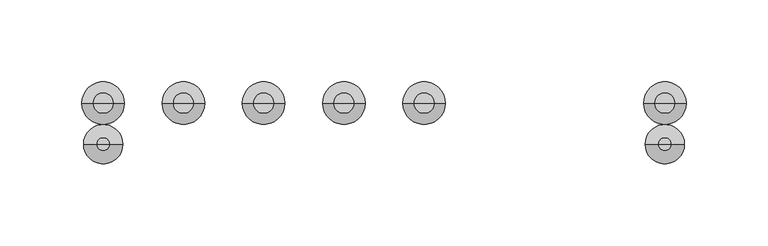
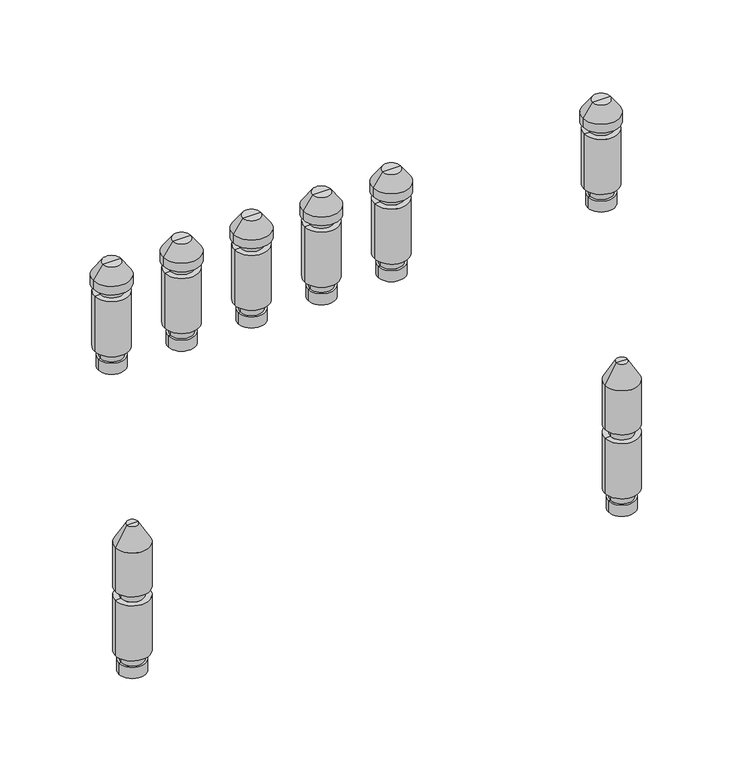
"""IFC4 building model written with IfcOpenShell, lengths in millimetres: valve geometry, PL AT_Manifold_FT-EV : 09 circuits."""

from ifc_helpers import new_model, si_unit, frame, origin, place, context, project, spatial, polyline, circle_curve, source, transform, mapped, element, save
from ifc_brep_helpers import plane_surface, cylinder_surface, revolved_surface, advanced_brep


def valve_0359cbb0(model_context):
    return source(origin(), model_context, "Body", "AdvancedBrep", [
        advanced_brep(
        [(277.5, 25.0, 174.88733), (296.5, 25.0, 174.88733), (287.0, 25.0, 174.88733), (277.5, 25.0, 182.9630354), (296.5, 25.0, 182.9630354), (279.0, 25.0, 182.9630354), (295.0, 25.0, 182.9630354), (279.0, 25.0, 189.669747), (295.0, 25.0, 189.669747), (275.0, 25.0, 189.669747), (299.0, 25.0, 189.669747), (275.0, 25.0, 230.330253), (299.0, 25.0, 230.330253), (279.0, 25.0, 230.330253), (295.0, 25.0, 230.330253), (279.0, 25.0, 236.0474786), (295.0, 25.0, 236.0474786), (274.0, 25.0, 236.0474786), (300.0, 25.0, 236.0474786), (274.0, 25.0, 242.337955), (300.0, 25.0, 242.337955), (280.6551779, 25.0, 251.842534), (293.3448221, 25.0, 251.842534), (287.0, 25.0, 251.842534)],
        [
            (0, 1, circle_curve(frame((287.0, 25.0, 174.88733), z_axis=(0.0, 0.0, -1.0), x_axis=(1.0, 0.0, 0.0)), 9.5)),
            (1, 2),
            (2, 0),
            (1, 0, circle_curve(frame((287.0, 25.0, 174.88733), z_axis=(0.0, 0.0, -1.0), x_axis=(1.0, 0.0, 0.0)), 9.5)),
            (3, 4, circle_curve(frame((287.0, 25.0, 182.9630354), z_axis=(0.0, 0.0, -1.0), x_axis=(1.0, 0.0, 0.0)), 9.5)),
            (4, 1),
            (0, 3),
            (4, 3, circle_curve(frame((287.0, 25.0, 182.9630354), z_axis=(0.0, 0.0, -1.0), x_axis=(1.0, 0.0, 0.0)), 9.5)),
            (5, 6, circle_curve(frame((287.0, 25.0, 182.9630354), z_axis=(0.0, 0.0, -1.0), x_axis=(1.0, 0.0, 0.0)), 8.0)),
            (6, 4),
            (3, 5),
            (6, 5, circle_curve(frame((287.0, 25.0, 182.9630354), z_axis=(0.0, 0.0, -1.0), x_axis=(1.0, 0.0, 0.0)), 8.0)),
            (7, 8, circle_curve(frame((287.0, 25.0, 189.669747), z_axis=(0.0, 0.0, -1.0), x_axis=(1.0, 0.0, 0.0)), 8.0)),
            (8, 6),
            (5, 7),
            (8, 7, circle_curve(frame((287.0, 25.0, 189.669747), z_axis=(0.0, 0.0, -1.0), x_axis=(1.0, 0.0, 0.0)), 8.0)),
            (9, 10, circle_curve(frame((287.0, 25.0, 189.669747), z_axis=(0.0, 0.0, -1.0), x_axis=(1.0, 0.0, 0.0)), 12.0)),
            (10, 8),
            (7, 9),
            (10, 9, circle_curve(frame((287.0, 25.0, 189.669747), z_axis=(0.0, 0.0, -1.0), x_axis=(1.0, 0.0, 0.0)), 12.0)),
            (11, 12, circle_curve(frame((287.0, 25.0, 230.330253), z_axis=(0.0, 0.0, -1.0), x_axis=(1.0, 0.0, 0.0)), 12.0)),
            (12, 10),
            (9, 11),
            (12, 11, circle_curve(frame((287.0, 25.0, 230.330253), z_axis=(0.0, 0.0, -1.0), x_axis=(1.0, 0.0, 0.0)), 12.0)),
            (13, 14, circle_curve(frame((287.0, 25.0, 230.330253), z_axis=(0.0, 0.0, -1.0), x_axis=(1.0, 0.0, 0.0)), 8.0)),
            (14, 12),
            (11, 13),
            (14, 13, circle_curve(frame((287.0, 25.0, 230.330253), z_axis=(0.0, 0.0, -1.0), x_axis=(1.0, 0.0, 0.0)), 8.0)),
            (15, 16, circle_curve(frame((287.0, 25.0, 236.0474786), z_axis=(0.0, 0.0, -1.0), x_axis=(1.0, 0.0, 0.0)), 8.0)),
            (16, 14),
            (13, 15),
            (16, 15, circle_curve(frame((287.0, 25.0, 236.0474786), z_axis=(0.0, 0.0, -1.0), x_axis=(1.0, 0.0, 0.0)), 8.0)),
            (17, 18, circle_curve(frame((287.0, 25.0, 236.0474786), z_axis=(0.0, 0.0, -1.0), x_axis=(1.0, 0.0, 0.0)), 13.0)),
            (18, 16),
            (15, 17),
            (18, 17, circle_curve(frame((287.0, 25.0, 236.0474786), z_axis=(0.0, 0.0, -1.0), x_axis=(1.0, 0.0, 0.0)), 13.0)),
            (19, 20, circle_curve(frame((287.0, 25.0, 242.337955), z_axis=(0.0, 0.0, -1.0), x_axis=(1.0, 0.0, 0.0)), 13.0)),
            (20, 18),
            (17, 19),
            (20, 19, circle_curve(frame((287.0, 25.0, 242.337955), z_axis=(0.0, 0.0, -1.0), x_axis=(1.0, 0.0, 0.0)), 13.0)),
            (21, 22, circle_curve(frame((287.0, 25.0, 251.842534), z_axis=(0.0, 0.0, -1.0), x_axis=(1.0, 0.0, 0.0)), 6.3448221)),
            (22, 20),
            (19, 21),
            (22, 21, circle_curve(frame((287.0, 25.0, 251.842534), z_axis=(0.0, 0.0, -1.0), x_axis=(1.0, 0.0, 0.0)), 6.3448221)),
            (23, 22),
            (21, 23),
        ],
        [
            plane_surface(frame((287.0, 25.0, 174.88733), z_axis=(0.0, 0.0, -1.0), x_axis=(1.0, 0.0, 0.0))),
            cylinder_surface(frame((287.0, 25.0, 247.7026565), z_axis=(0.0, 0.0, 1.0), x_axis=(1.0, 0.0, 0.0)), 9.5),
            plane_surface(frame((287.0, 25.0, 182.9630354), z_axis=(0.0, 0.0, 1.0), x_axis=(1.0, 0.0, 0.0))),
            cylinder_surface(frame((287.0, 25.0, 247.7026565), z_axis=(0.0, 0.0, 1.0), x_axis=(1.0, 0.0, 0.0)), 8.0),
            plane_surface(frame((287.0, 25.0, 189.669747), z_axis=(0.0, 0.0, -1.0), x_axis=(1.0, 0.0, 0.0))),
            cylinder_surface(frame((287.0, 25.0, 247.7026565), z_axis=(0.0, 0.0, 1.0), x_axis=(1.0, 0.0, 0.0)), 12.0),
            plane_surface(frame((287.0, 25.0, 230.330253), z_axis=(0.0, 0.0, 1.0), x_axis=(1.0, 0.0, 0.0))),
            plane_surface(frame((287.0, 25.0, 236.0474786), z_axis=(0.0, 0.0, -1.0), x_axis=(1.0, 0.0, 0.0))),
            cylinder_surface(frame((287.0, 25.0, 247.7026565), z_axis=(0.0, 0.0, 1.0), x_axis=(1.0, 0.0, 0.0)), 13.0),
            revolved_surface(polyline([(300.0, 25.0, 242.337955), (293.3448221, 25.0, 251.842534)]), (287.0, 25.0, 247.7026565), (0.0, 0.0, 1.0)),
            plane_surface(frame((287.0, 25.0, 251.842534), z_axis=(0.0, 0.0, 1.0), x_axis=(1.0, 0.0, 0.0))),
        ],
        [
            (0, [[1, 2, 3]]),
            (0, [[4, -3, -2]]),
            (1, [[5, 6, -1, 7]]),
            (1, [[8, -7, -4, -6]]),
            (2, [[9, 10, -5, 11]]),
            (2, [[12, -11, -8, -10]]),
            (3, [[13, 14, -9, 15]]),
            (3, [[16, -15, -12, -14]]),
            (4, [[17, 18, -13, 19]]),
            (4, [[20, -19, -16, -18]]),
            (5, [[21, 22, -17, 23]]),
            (5, [[24, -23, -20, -22]]),
            (6, [[25, 26, -21, 27]]),
            (6, [[28, -27, -24, -26]]),
            (3, [[29, 30, -25, 31]]),
            (3, [[32, -31, -28, -30]]),
            (7, [[33, 34, -29, 35]]),
            (7, [[36, -35, -32, -34]]),
            (8, [[37, 38, -33, 39]]),
            (8, [[40, -39, -36, -38]]),
            (9, [[41, 42, -37, 43]]),
            (9, [[44, -43, -40, -42]]),
            (10, [[45, -41, 46]]),
            (10, [[-46, -44, -45]]),
        ],
    ),
        advanced_brep(
        [(228.5, 25.0, 174.88733), (247.5, 25.0, 174.88733), (238.0, 25.0, 174.88733), (228.5, 25.0, 182.9630354), (247.5, 25.0, 182.9630354), (230.0, 25.0, 182.9630354), (246.0, 25.0, 182.9630354), (230.0, 25.0, 189.669747), (246.0, 25.0, 189.669747), (226.0, 25.0, 189.669747), (250.0, 25.0, 189.669747), (226.0, 25.0, 230.330253), (250.0, 25.0, 230.330253), (230.0, 25.0, 230.330253), (246.0, 25.0, 230.330253), (230.0, 25.0, 236.0474786), (246.0, 25.0, 236.0474786), (225.0, 25.0, 236.0474786), (251.0, 25.0, 236.0474786), (225.0, 25.0, 242.337955), (251.0, 25.0, 242.337955), (231.6551779, 25.0, 251.842534), (244.3448221, 25.0, 251.842534), (238.0, 25.0, 251.842534)],
        [
            (0, 1, circle_curve(frame((238.0, 25.0, 174.88733), z_axis=(0.0, 0.0, -1.0), x_axis=(1.0, 0.0, 0.0)), 9.5)),
            (1, 2),
            (2, 0),
            (1, 0, circle_curve(frame((238.0, 25.0, 174.88733), z_axis=(0.0, 0.0, -1.0), x_axis=(1.0, 0.0, 0.0)), 9.5)),
            (3, 4, circle_curve(frame((238.0, 25.0, 182.9630354), z_axis=(0.0, 0.0, -1.0), x_axis=(1.0, 0.0, 0.0)), 9.5)),
            (4, 1),
            (0, 3),
            (4, 3, circle_curve(frame((238.0, 25.0, 182.9630354), z_axis=(0.0, 0.0, -1.0), x_axis=(1.0, 0.0, 0.0)), 9.5)),
            (5, 6, circle_curve(frame((238.0, 25.0, 182.9630354), z_axis=(0.0, 0.0, -1.0), x_axis=(1.0, 0.0, 0.0)), 8.0)),
            (6, 4),
            (3, 5),
            (6, 5, circle_curve(frame((238.0, 25.0, 182.9630354), z_axis=(0.0, 0.0, -1.0), x_axis=(1.0, 0.0, 0.0)), 8.0)),
            (7, 8, circle_curve(frame((238.0, 25.0, 189.669747), z_axis=(0.0, 0.0, -1.0), x_axis=(1.0, 0.0, 0.0)), 8.0)),
            (8, 6),
            (5, 7),
            (8, 7, circle_curve(frame((238.0, 25.0, 189.669747), z_axis=(0.0, 0.0, -1.0), x_axis=(1.0, 0.0, 0.0)), 8.0)),
            (9, 10, circle_curve(frame((238.0, 25.0, 189.669747), z_axis=(0.0, 0.0, -1.0), x_axis=(1.0, 0.0, 0.0)), 12.0)),
            (10, 8),
            (7, 9),
            (10, 9, circle_curve(frame((238.0, 25.0, 189.669747), z_axis=(0.0, 0.0, -1.0), x_axis=(1.0, 0.0, 0.0)), 12.0)),
            (11, 12, circle_curve(frame((238.0, 25.0, 230.330253), z_axis=(0.0, 0.0, -1.0), x_axis=(1.0, 0.0, 0.0)), 12.0)),
            (12, 10),
            (9, 11),
            (12, 11, circle_curve(frame((238.0, 25.0, 230.330253), z_axis=(0.0, 0.0, -1.0), x_axis=(1.0, 0.0, 0.0)), 12.0)),
            (13, 14, circle_curve(frame((238.0, 25.0, 230.330253), z_axis=(0.0, 0.0, -1.0), x_axis=(1.0, 0.0, 0.0)), 8.0)),
            (14, 12),
            (11, 13),
            (14, 13, circle_curve(frame((238.0, 25.0, 230.330253), z_axis=(0.0, 0.0, -1.0), x_axis=(1.0, 0.0, 0.0)), 8.0)),
            (15, 16, circle_curve(frame((238.0, 25.0, 236.0474786), z_axis=(0.0, 0.0, -1.0), x_axis=(1.0, 0.0, 0.0)), 8.0)),
            (16, 14),
            (13, 15),
            (16, 15, circle_curve(frame((238.0, 25.0, 236.0474786), z_axis=(0.0, 0.0, -1.0), x_axis=(1.0, 0.0, 0.0)), 8.0)),
            (17, 18, circle_curve(frame((238.0, 25.0, 236.0474786), z_axis=(0.0, 0.0, -1.0), x_axis=(1.0, 0.0, 0.0)), 13.0)),
            (18, 16),
            (15, 17),
            (18, 17, circle_curve(frame((238.0, 25.0, 236.0474786), z_axis=(0.0, 0.0, -1.0), x_axis=(1.0, 0.0, 0.0)), 13.0)),
            (19, 20, circle_curve(frame((238.0, 25.0, 242.337955), z_axis=(0.0, 0.0, -1.0), x_axis=(1.0, 0.0, 0.0)), 13.0)),
            (20, 18),
            (17, 19),
            (20, 19, circle_curve(frame((238.0, 25.0, 242.337955), z_axis=(0.0, 0.0, -1.0), x_axis=(1.0, 0.0, 0.0)), 13.0)),
            (21, 22, circle_curve(frame((238.0, 25.0, 251.842534), z_axis=(0.0, 0.0, -1.0), x_axis=(1.0, 0.0, 0.0)), 6.3448221)),
            (22, 20),
            (19, 21),
            (22, 21, circle_curve(frame((238.0, 25.0, 251.842534), z_axis=(0.0, 0.0, -1.0), x_axis=(1.0, 0.0, 0.0)), 6.3448221)),
            (23, 22),
            (21, 23),
        ],
        [
            plane_surface(frame((238.0, 25.0, 174.88733), z_axis=(0.0, 0.0, -1.0), x_axis=(1.0, 0.0, 0.0))),
            cylinder_surface(frame((238.0, 25.0, 247.7026565), z_axis=(0.0, 0.0, 1.0), x_axis=(1.0, 0.0, 0.0)), 9.5),
            plane_surface(frame((238.0, 25.0, 182.9630354), z_axis=(0.0, 0.0, 1.0), x_axis=(1.0, 0.0, 0.0))),
            cylinder_surface(frame((238.0, 25.0, 247.7026565), z_axis=(0.0, 0.0, 1.0), x_axis=(1.0, 0.0, 0.0)), 8.0),
            plane_surface(frame((238.0, 25.0, 189.669747), z_axis=(0.0, 0.0, -1.0), x_axis=(1.0, 0.0, 0.0))),
            cylinder_surface(frame((238.0, 25.0, 247.7026565), z_axis=(0.0, 0.0, 1.0), x_axis=(1.0, 0.0, 0.0)), 12.0),
            plane_surface(frame((238.0, 25.0, 230.330253), z_axis=(0.0, 0.0, 1.0), x_axis=(1.0, 0.0, 0.0))),
            plane_surface(frame((238.0, 25.0, 236.0474786), z_axis=(0.0, 0.0, -1.0), x_axis=(1.0, 0.0, 0.0))),
            cylinder_surface(frame((238.0, 25.0, 247.7026565), z_axis=(0.0, 0.0, 1.0), x_axis=(1.0, 0.0, 0.0)), 13.0),
            revolved_surface(polyline([(251.0, 25.0, 242.337955), (244.3448221, 25.0, 251.842534)]), (238.0, 25.0, 247.7026565), (0.0, 0.0, 1.0)),
            plane_surface(frame((238.0, 25.0, 251.842534), z_axis=(0.0, 0.0, 1.0), x_axis=(1.0, 0.0, 0.0))),
        ],
        [
            (0, [[1, 2, 3]]),
            (0, [[4, -3, -2]]),
            (1, [[5, 6, -1, 7]]),
            (1, [[8, -7, -4, -6]]),
            (2, [[9, 10, -5, 11]]),
            (2, [[12, -11, -8, -10]]),
            (3, [[13, 14, -9, 15]]),
            (3, [[16, -15, -12, -14]]),
            (4, [[17, 18, -13, 19]]),
            (4, [[20, -19, -16, -18]]),
            (5, [[21, 22, -17, 23]]),
            (5, [[24, -23, -20, -22]]),
            (6, [[25, 26, -21, 27]]),
            (6, [[28, -27, -24, -26]]),
            (3, [[29, 30, -25, 31]]),
            (3, [[32, -31, -28, -30]]),
            (7, [[33, 34, -29, 35]]),
            (7, [[36, -35, -32, -34]]),
            (8, [[37, 38, -33, 39]]),
            (8, [[40, -39, -36, -38]]),
            (9, [[41, 42, -37, 43]]),
            (9, [[44, -43, -40, -42]]),
            (10, [[45, -41, 46]]),
            (10, [[-46, -44, -45]]),
        ],
    ),
        advanced_brep(
        [(179.5, 25.0, 174.88733), (198.5, 25.0, 174.88733), (189.0, 25.0, 174.88733), (179.5, 25.0, 182.9630354), (198.5, 25.0, 182.9630354), (181.0, 25.0, 182.9630354), (197.0, 25.0, 182.9630354), (181.0, 25.0, 189.669747), (197.0, 25.0, 189.669747), (177.0, 25.0, 189.669747), (201.0, 25.0, 189.669747), (177.0, 25.0, 230.330253), (201.0, 25.0, 230.330253), (181.0, 25.0, 230.330253), (197.0, 25.0, 230.330253), (181.0, 25.0, 236.0474786), (197.0, 25.0, 236.0474786), (176.0, 25.0, 236.0474786), (202.0, 25.0, 236.0474786), (176.0, 25.0, 242.337955), (202.0, 25.0, 242.337955), (182.6551779, 25.0, 251.842534), (195.3448221, 25.0, 251.842534), (189.0, 25.0, 251.842534)],
        [
            (0, 1, circle_curve(frame((189.0, 25.0, 174.88733), z_axis=(0.0, 0.0, -1.0), x_axis=(1.0, 0.0, 0.0)), 9.5)),
            (1, 2),
            (2, 0),
            (1, 0, circle_curve(frame((189.0, 25.0, 174.88733), z_axis=(0.0, 0.0, -1.0), x_axis=(1.0, 0.0, 0.0)), 9.5)),
            (3, 4, circle_curve(frame((189.0, 25.0, 182.9630354), z_axis=(0.0, 0.0, -1.0), x_axis=(1.0, 0.0, 0.0)), 9.5)),
            (4, 1),
            (0, 3),
            (4, 3, circle_curve(frame((189.0, 25.0, 182.9630354), z_axis=(0.0, 0.0, -1.0), x_axis=(1.0, 0.0, 0.0)), 9.5)),
            (5, 6, circle_curve(frame((189.0, 25.0, 182.9630354), z_axis=(0.0, 0.0, -1.0), x_axis=(1.0, 0.0, 0.0)), 8.0)),
            (6, 4),
            (3, 5),
            (6, 5, circle_curve(frame((189.0, 25.0, 182.9630354), z_axis=(0.0, 0.0, -1.0), x_axis=(1.0, 0.0, 0.0)), 8.0)),
            (7, 8, circle_curve(frame((189.0, 25.0, 189.669747), z_axis=(0.0, 0.0, -1.0), x_axis=(1.0, 0.0, 0.0)), 8.0)),
            (8, 6),
            (5, 7),
            (8, 7, circle_curve(frame((189.0, 25.0, 189.669747), z_axis=(0.0, 0.0, -1.0), x_axis=(1.0, 0.0, 0.0)), 8.0)),
            (9, 10, circle_curve(frame((189.0, 25.0, 189.669747), z_axis=(0.0, 0.0, -1.0), x_axis=(1.0, 0.0, 0.0)), 12.0)),
            (10, 8),
            (7, 9),
            (10, 9, circle_curve(frame((189.0, 25.0, 189.669747), z_axis=(0.0, 0.0, -1.0), x_axis=(1.0, 0.0, 0.0)), 12.0)),
            (11, 12, circle_curve(frame((189.0, 25.0, 230.330253), z_axis=(0.0, 0.0, -1.0), x_axis=(1.0, 0.0, 0.0)), 12.0)),
            (12, 10),
            (9, 11),
            (12, 11, circle_curve(frame((189.0, 25.0, 230.330253), z_axis=(0.0, 0.0, -1.0), x_axis=(1.0, 0.0, 0.0)), 12.0)),
            (13, 14, circle_curve(frame((189.0, 25.0, 230.330253), z_axis=(0.0, 0.0, -1.0), x_axis=(1.0, 0.0, 0.0)), 8.0)),
            (14, 12),
            (11, 13),
            (14, 13, circle_curve(frame((189.0, 25.0, 230.330253), z_axis=(0.0, 0.0, -1.0), x_axis=(1.0, 0.0, 0.0)), 8.0)),
            (15, 16, circle_curve(frame((189.0, 25.0, 236.0474786), z_axis=(0.0, 0.0, -1.0), x_axis=(1.0, 0.0, 0.0)), 8.0)),
            (16, 14),
            (13, 15),
            (16, 15, circle_curve(frame((189.0, 25.0, 236.0474786), z_axis=(0.0, 0.0, -1.0), x_axis=(1.0, 0.0, 0.0)), 8.0)),
            (17, 18, circle_curve(frame((189.0, 25.0, 236.0474786), z_axis=(0.0, 0.0, -1.0), x_axis=(1.0, 0.0, 0.0)), 13.0)),
            (18, 16),
            (15, 17),
            (18, 17, circle_curve(frame((189.0, 25.0, 236.0474786), z_axis=(0.0, 0.0, -1.0), x_axis=(1.0, 0.0, 0.0)), 13.0)),
            (19, 20, circle_curve(frame((189.0, 25.0, 242.337955), z_axis=(0.0, 0.0, -1.0), x_axis=(1.0, 0.0, 0.0)), 13.0)),
            (20, 18),
            (17, 19),
            (20, 19, circle_curve(frame((189.0, 25.0, 242.337955), z_axis=(0.0, 0.0, -1.0), x_axis=(1.0, 0.0, 0.0)), 13.0)),
            (21, 22, circle_curve(frame((189.0, 25.0, 251.842534), z_axis=(0.0, 0.0, -1.0), x_axis=(1.0, 0.0, 0.0)), 6.3448221)),
            (22, 20),
            (19, 21),
            (22, 21, circle_curve(frame((189.0, 25.0, 251.842534), z_axis=(0.0, 0.0, -1.0), x_axis=(1.0, 0.0, 0.0)), 6.3448221)),
            (23, 22),
            (21, 23),
        ],
        [
            plane_surface(frame((189.0, 25.0, 174.88733), z_axis=(0.0, 0.0, -1.0), x_axis=(1.0, 0.0, 0.0))),
            cylinder_surface(frame((189.0, 25.0, 247.7026565), z_axis=(0.0, 0.0, 1.0), x_axis=(1.0, 0.0, 0.0)), 9.5),
            plane_surface(frame((189.0, 25.0, 182.9630354), z_axis=(0.0, 0.0, 1.0), x_axis=(1.0, 0.0, 0.0))),
            cylinder_surface(frame((189.0, 25.0, 247.7026565), z_axis=(0.0, 0.0, 1.0), x_axis=(1.0, 0.0, 0.0)), 8.0),
            plane_surface(frame((189.0, 25.0, 189.669747), z_axis=(0.0, 0.0, -1.0), x_axis=(1.0, 0.0, 0.0))),
            cylinder_surface(frame((189.0, 25.0, 247.7026565), z_axis=(0.0, 0.0, 1.0), x_axis=(1.0, 0.0, 0.0)), 12.0),
            plane_surface(frame((189.0, 25.0, 230.330253), z_axis=(0.0, 0.0, 1.0), x_axis=(1.0, 0.0, 0.0))),
            plane_surface(frame((189.0, 25.0, 236.0474786), z_axis=(0.0, 0.0, -1.0), x_axis=(1.0, 0.0, 0.0))),
            cylinder_surface(frame((189.0, 25.0, 247.7026565), z_axis=(0.0, 0.0, 1.0), x_axis=(1.0, 0.0, 0.0)), 13.0),
            revolved_surface(polyline([(202.0, 25.0, 242.337955), (195.3448221, 25.0, 251.842534)]), (189.0, 25.0, 247.7026565), (0.0, 0.0, 1.0)),
            plane_surface(frame((189.0, 25.0, 251.842534), z_axis=(0.0, 0.0, 1.0), x_axis=(1.0, 0.0, 0.0))),
        ],
        [
            (0, [[1, 2, 3]]),
            (0, [[4, -3, -2]]),
            (1, [[5, 6, -1, 7]]),
            (1, [[8, -7, -4, -6]]),
            (2, [[9, 10, -5, 11]]),
            (2, [[12, -11, -8, -10]]),
            (3, [[13, 14, -9, 15]]),
            (3, [[16, -15, -12, -14]]),
            (4, [[17, 18, -13, 19]]),
            (4, [[20, -19, -16, -18]]),
            (5, [[21, 22, -17, 23]]),
            (5, [[24, -23, -20, -22]]),
            (6, [[25, 26, -21, 27]]),
            (6, [[28, -27, -24, -26]]),
            (3, [[29, 30, -25, 31]]),
            (3, [[32, -31, -28, -30]]),
            (7, [[33, 34, -29, 35]]),
            (7, [[36, -35, -32, -34]]),
            (8, [[37, 38, -33, 39]]),
            (8, [[40, -39, -36, -38]]),
            (9, [[41, 42, -37, 43]]),
            (9, [[44, -43, -40, -42]]),
            (10, [[45, -41, 46]]),
            (10, [[-46, -44, -45]]),
        ],
    ),
        advanced_brep(
        [(130.5, 25.0, 174.88733), (149.5, 25.0, 174.88733), (140.0, 25.0, 174.88733), (130.5, 25.0, 182.9630354), (149.5, 25.0, 182.9630354), (132.0, 25.0, 182.9630354), (148.0, 25.0, 182.9630354), (132.0, 25.0, 189.669747), (148.0, 25.0, 189.669747), (128.0, 25.0, 189.669747), (152.0, 25.0, 189.669747), (128.0, 25.0, 230.330253), (152.0, 25.0, 230.330253), (132.0, 25.0, 230.330253), (148.0, 25.0, 230.330253), (132.0, 25.0, 236.0474786), (148.0, 25.0, 236.0474786), (127.0, 25.0, 236.0474786), (153.0, 25.0, 236.0474786), (127.0, 25.0, 242.337955), (153.0, 25.0, 242.337955), (133.6551779, 25.0, 251.842534), (146.3448221, 25.0, 251.842534), (140.0, 25.0, 251.842534)],
        [
            (0, 1, circle_curve(frame((140.0, 25.0, 174.88733), z_axis=(0.0, 0.0, -1.0), x_axis=(1.0, 0.0, 0.0)), 9.5)),
            (1, 2),
            (2, 0),
            (1, 0, circle_curve(frame((140.0, 25.0, 174.88733), z_axis=(0.0, 0.0, -1.0), x_axis=(1.0, 0.0, 0.0)), 9.5)),
            (3, 4, circle_curve(frame((140.0, 25.0, 182.9630354), z_axis=(0.0, 0.0, -1.0), x_axis=(1.0, 0.0, 0.0)), 9.5)),
            (4, 1),
            (0, 3),
            (4, 3, circle_curve(frame((140.0, 25.0, 182.9630354), z_axis=(0.0, 0.0, -1.0), x_axis=(1.0, 0.0, 0.0)), 9.5)),
            (5, 6, circle_curve(frame((140.0, 25.0, 182.9630354), z_axis=(0.0, 0.0, -1.0), x_axis=(1.0, 0.0, 0.0)), 8.0)),
            (6, 4),
            (3, 5),
            (6, 5, circle_curve(frame((140.0, 25.0, 182.9630354), z_axis=(0.0, 0.0, -1.0), x_axis=(1.0, 0.0, 0.0)), 8.0)),
            (7, 8, circle_curve(frame((140.0, 25.0, 189.669747), z_axis=(0.0, 0.0, -1.0), x_axis=(1.0, 0.0, 0.0)), 8.0)),
            (8, 6),
            (5, 7),
            (8, 7, circle_curve(frame((140.0, 25.0, 189.669747), z_axis=(0.0, 0.0, -1.0), x_axis=(1.0, 0.0, 0.0)), 8.0)),
            (9, 10, circle_curve(frame((140.0, 25.0, 189.669747), z_axis=(0.0, 0.0, -1.0), x_axis=(1.0, 0.0, 0.0)), 12.0)),
            (10, 8),
            (7, 9),
            (10, 9, circle_curve(frame((140.0, 25.0, 189.669747), z_axis=(0.0, 0.0, -1.0), x_axis=(1.0, 0.0, 0.0)), 12.0)),
            (11, 12, circle_curve(frame((140.0, 25.0, 230.330253), z_axis=(0.0, 0.0, -1.0), x_axis=(1.0, 0.0, 0.0)), 12.0)),
            (12, 10),
            (9, 11),
            (12, 11, circle_curve(frame((140.0, 25.0, 230.330253), z_axis=(0.0, 0.0, -1.0), x_axis=(1.0, 0.0, 0.0)), 12.0)),
            (13, 14, circle_curve(frame((140.0, 25.0, 230.330253), z_axis=(0.0, 0.0, -1.0), x_axis=(1.0, 0.0, 0.0)), 8.0)),
            (14, 12),
            (11, 13),
            (14, 13, circle_curve(frame((140.0, 25.0, 230.330253), z_axis=(0.0, 0.0, -1.0), x_axis=(1.0, 0.0, 0.0)), 8.0)),
            (15, 16, circle_curve(frame((140.0, 25.0, 236.0474786), z_axis=(0.0, 0.0, -1.0), x_axis=(1.0, 0.0, 0.0)), 8.0)),
            (16, 14),
            (13, 15),
            (16, 15, circle_curve(frame((140.0, 25.0, 236.0474786), z_axis=(0.0, 0.0, -1.0), x_axis=(1.0, 0.0, 0.0)), 8.0)),
            (17, 18, circle_curve(frame((140.0, 25.0, 236.0474786), z_axis=(0.0, 0.0, -1.0), x_axis=(1.0, 0.0, 0.0)), 13.0)),
            (18, 16),
            (15, 17),
            (18, 17, circle_curve(frame((140.0, 25.0, 236.0474786), z_axis=(0.0, 0.0, -1.0), x_axis=(1.0, 0.0, 0.0)), 13.0)),
            (19, 20, circle_curve(frame((140.0, 25.0, 242.337955), z_axis=(0.0, 0.0, -1.0), x_axis=(1.0, 0.0, 0.0)), 13.0)),
            (20, 18),
            (17, 19),
            (20, 19, circle_curve(frame((140.0, 25.0, 242.337955), z_axis=(0.0, 0.0, -1.0), x_axis=(1.0, 0.0, 0.0)), 13.0)),
            (21, 22, circle_curve(frame((140.0, 25.0, 251.842534), z_axis=(0.0, 0.0, -1.0), x_axis=(1.0, 0.0, 0.0)), 6.3448221)),
            (22, 20),
            (19, 21),
            (22, 21, circle_curve(frame((140.0, 25.0, 251.842534), z_axis=(0.0, 0.0, -1.0), x_axis=(1.0, 0.0, 0.0)), 6.3448221)),
            (23, 22),
            (21, 23),
        ],
        [
            plane_surface(frame((140.0, 25.0, 174.88733), z_axis=(0.0, 0.0, -1.0), x_axis=(1.0, 0.0, 0.0))),
            cylinder_surface(frame((140.0, 25.0, 247.7026565), z_axis=(0.0, 0.0, 1.0), x_axis=(1.0, 0.0, 0.0)), 9.5),
            plane_surface(frame((140.0, 25.0, 182.9630354), z_axis=(0.0, 0.0, 1.0), x_axis=(1.0, 0.0, 0.0))),
            cylinder_surface(frame((140.0, 25.0, 247.7026565), z_axis=(0.0, 0.0, 1.0), x_axis=(1.0, 0.0, 0.0)), 8.0),
            plane_surface(frame((140.0, 25.0, 189.669747), z_axis=(0.0, 0.0, -1.0), x_axis=(1.0, 0.0, 0.0))),
            cylinder_surface(frame((140.0, 25.0, 247.7026565), z_axis=(0.0, 0.0, 1.0), x_axis=(1.0, 0.0, 0.0)), 12.0),
            plane_surface(frame((140.0, 25.0, 230.330253), z_axis=(0.0, 0.0, 1.0), x_axis=(1.0, 0.0, 0.0))),
            plane_surface(frame((140.0, 25.0, 236.0474786), z_axis=(0.0, 0.0, -1.0), x_axis=(1.0, 0.0, 0.0))),
            cylinder_surface(frame((140.0, 25.0, 247.7026565), z_axis=(0.0, 0.0, 1.0), x_axis=(1.0, 0.0, 0.0)), 13.0),
            revolved_surface(polyline([(153.0, 25.0, 242.337955), (146.3448221, 25.0, 251.842534)]), (140.0, 25.0, 247.7026565), (0.0, 0.0, 1.0)),
            plane_surface(frame((140.0, 25.0, 251.842534), z_axis=(0.0, 0.0, 1.0), x_axis=(1.0, 0.0, 0.0))),
        ],
        [
            (0, [[1, 2, 3]]),
            (0, [[4, -3, -2]]),
            (1, [[5, 6, -1, 7]]),
            (1, [[8, -7, -4, -6]]),
            (2, [[9, 10, -5, 11]]),
            (2, [[12, -11, -8, -10]]),
            (3, [[13, 14, -9, 15]]),
            (3, [[16, -15, -12, -14]]),
            (4, [[17, 18, -13, 19]]),
            (4, [[20, -19, -16, -18]]),
            (5, [[21, 22, -17, 23]]),
            (5, [[24, -23, -20, -22]]),
            (6, [[25, 26, -21, 27]]),
            (6, [[28, -27, -24, -26]]),
            (3, [[29, 30, -25, 31]]),
            (3, [[32, -31, -28, -30]]),
            (7, [[33, 34, -29, 35]]),
            (7, [[36, -35, -32, -34]]),
            (8, [[37, 38, -33, 39]]),
            (8, [[40, -39, -36, -38]]),
            (9, [[41, 42, -37, 43]]),
            (9, [[44, -43, -40, -42]]),
            (10, [[45, -41, 46]]),
            (10, [[-46, -44, -45]]),
        ],
    ),
        advanced_brep(
        [(81.5, 0.0, -35.11267), (100.5, 0.0, -35.11267), (91.0, 0.0, -35.11267), (81.5, 0.0, -27.0369646), (100.5, 0.0, -27.0369646), (83.0, 0.0, -27.0369646), (99.0, 0.0, -27.0369646), (83.0, 0.0, -20.330253), (99.0, 0.0, -20.330253), (79.0, 0.0, -20.330253), (103.0, 0.0, -20.330253), (79.0, 0.0, 20.330253), (103.0, 0.0, 20.330253), (83.0, 0.0, 20.330253), (99.0, 0.0, 20.330253), (83.0, 0.0, 27.0474786), (99.0, 0.0, 27.0474786), (79.0, 0.0, 27.0474786), (103.0, 0.0, 27.0474786), (79.0, 0.0, 59.4084325), (103.0, 0.0, 59.4084325), (87.0, 0.0, 73.264839), (95.0, 0.0, 73.264839), (91.0, 0.0, 73.264839)],
        [
            (0, 1, circle_curve(frame((91.0, 0.0, -35.11267), z_axis=(0.0, 0.0, -1.0), x_axis=(1.0, 0.0, 0.0)), 9.5)),
            (1, 2),
            (2, 0),
            (1, 0, circle_curve(frame((91.0, 0.0, -35.11267), z_axis=(0.0, 0.0, -1.0), x_axis=(1.0, 0.0, 0.0)), 9.5)),
            (3, 4, circle_curve(frame((91.0, 0.0, -27.0369646), z_axis=(0.0, 0.0, -1.0), x_axis=(1.0, 0.0, 0.0)), 9.5)),
            (4, 1),
            (0, 3),
            (4, 3, circle_curve(frame((91.0, 0.0, -27.0369646), z_axis=(0.0, 0.0, -1.0), x_axis=(1.0, 0.0, 0.0)), 9.5)),
            (5, 6, circle_curve(frame((91.0, 0.0, -27.0369646), z_axis=(0.0, 0.0, -1.0), x_axis=(1.0, 0.0, 0.0)), 8.0)),
            (6, 4),
            (3, 5),
            (6, 5, circle_curve(frame((91.0, 0.0, -27.0369646), z_axis=(0.0, 0.0, -1.0), x_axis=(1.0, 0.0, 0.0)), 8.0)),
            (7, 8, circle_curve(frame((91.0, 0.0, -20.330253), z_axis=(0.0, 0.0, -1.0), x_axis=(1.0, 0.0, 0.0)), 8.0)),
            (8, 6),
            (5, 7),
            (8, 7, circle_curve(frame((91.0, 0.0, -20.330253), z_axis=(0.0, 0.0, -1.0), x_axis=(1.0, 0.0, 0.0)), 8.0)),
            (9, 10, circle_curve(frame((91.0, 0.0, -20.330253), z_axis=(0.0, 0.0, -1.0), x_axis=(1.0, 0.0, 0.0)), 12.0)),
            (10, 8),
            (7, 9),
            (10, 9, circle_curve(frame((91.0, 0.0, -20.330253), z_axis=(0.0, 0.0, -1.0), x_axis=(1.0, 0.0, 0.0)), 12.0)),
            (11, 12, circle_curve(frame((91.0, 0.0, 20.330253), z_axis=(0.0, 0.0, -1.0), x_axis=(1.0, 0.0, 0.0)), 12.0)),
            (12, 10),
            (9, 11),
            (12, 11, circle_curve(frame((91.0, 0.0, 20.330253), z_axis=(0.0, 0.0, -1.0), x_axis=(1.0, 0.0, 0.0)), 12.0)),
            (13, 14, circle_curve(frame((91.0, 0.0, 20.330253), z_axis=(0.0, 0.0, -1.0), x_axis=(1.0, 0.0, 0.0)), 8.0)),
            (14, 12),
            (11, 13),
            (14, 13, circle_curve(frame((91.0, 0.0, 20.330253), z_axis=(0.0, 0.0, -1.0), x_axis=(1.0, 0.0, 0.0)), 8.0)),
            (15, 16, circle_curve(frame((91.0, 0.0, 27.0474786), z_axis=(0.0, 0.0, -1.0), x_axis=(1.0, 0.0, 0.0)), 8.0)),
            (16, 14),
            (13, 15),
            (16, 15, circle_curve(frame((91.0, 0.0, 27.0474786), z_axis=(0.0, 0.0, -1.0), x_axis=(1.0, 0.0, 0.0)), 8.0)),
            (17, 18, circle_curve(frame((91.0, 0.0, 27.0474786), z_axis=(0.0, 0.0, -1.0), x_axis=(1.0, 0.0, 0.0)), 12.0)),
            (18, 16),
            (15, 17),
            (18, 17, circle_curve(frame((91.0, 0.0, 27.0474786), z_axis=(0.0, 0.0, -1.0), x_axis=(1.0, 0.0, 0.0)), 12.0)),
            (19, 20, circle_curve(frame((91.0, 0.0, 59.4084325), z_axis=(0.0, 0.0, -1.0), x_axis=(1.0, 0.0, 0.0)), 12.0)),
            (20, 18),
            (17, 19),
            (20, 19, circle_curve(frame((91.0, 0.0, 59.4084325), z_axis=(0.0, 0.0, -1.0), x_axis=(1.0, 0.0, 0.0)), 12.0)),
            (21, 22, circle_curve(frame((91.0, 0.0, 73.264839), z_axis=(0.0, 0.0, -1.0), x_axis=(1.0, 0.0, 0.0)), 4.0)),
            (22, 20),
            (19, 21),
            (22, 21, circle_curve(frame((91.0, 0.0, 73.264839), z_axis=(0.0, 0.0, -1.0), x_axis=(1.0, 0.0, 0.0)), 4.0)),
            (23, 22),
            (21, 23),
        ],
        [
            plane_surface(frame((91.0, 0.0, -35.11267), z_axis=(0.0, 0.0, -1.0), x_axis=(1.0, 0.0, 0.0))),
            cylinder_surface(frame((91.0, 0.0, 58.264839), z_axis=(0.0, 0.0, 1.0), x_axis=(1.0, 0.0, 0.0)), 9.5),
            plane_surface(frame((91.0, 0.0, -27.0369646), z_axis=(0.0, 0.0, 1.0), x_axis=(1.0, 0.0, 0.0))),
            cylinder_surface(frame((91.0, 0.0, 58.264839), z_axis=(0.0, 0.0, 1.0), x_axis=(1.0, 0.0, 0.0)), 8.0),
            plane_surface(frame((91.0, 0.0, -20.330253), z_axis=(0.0, 0.0, -1.0), x_axis=(1.0, 0.0, 0.0))),
            cylinder_surface(frame((91.0, 0.0, 58.264839), z_axis=(0.0, 0.0, 1.0), x_axis=(1.0, 0.0, 0.0)), 12.0),
            plane_surface(frame((91.0, 0.0, 20.330253), z_axis=(0.0, 0.0, 1.0), x_axis=(1.0, 0.0, 0.0))),
            plane_surface(frame((91.0, 0.0, 27.0474786), z_axis=(0.0, 0.0, -1.0), x_axis=(1.0, 0.0, 0.0))),
            revolved_surface(polyline([(103.0, 0.0, 59.4084325), (95.0, 0.0, 73.264839)]), (91.0, 0.0, 58.264839), (0.0, 0.0, 1.0)),
            plane_surface(frame((91.0, 0.0, 73.264839), z_axis=(0.0, 0.0, 1.0), x_axis=(1.0, 0.0, 0.0))),
        ],
        [
            (0, [[1, 2, 3]]),
            (0, [[4, -3, -2]]),
            (1, [[5, 6, -1, 7]]),
            (1, [[8, -7, -4, -6]]),
            (2, [[9, 10, -5, 11]]),
            (2, [[12, -11, -8, -10]]),
            (3, [[13, 14, -9, 15]]),
            (3, [[16, -15, -12, -14]]),
            (4, [[17, 18, -13, 19]]),
            (4, [[20, -19, -16, -18]]),
            (5, [[21, 22, -17, 23]]),
            (5, [[24, -23, -20, -22]]),
            (6, [[25, 26, -21, 27]]),
            (6, [[28, -27, -24, -26]]),
            (3, [[29, 30, -25, 31]]),
            (3, [[32, -31, -28, -30]]),
            (7, [[33, 34, -29, 35]]),
            (7, [[36, -35, -32, -34]]),
            (5, [[37, 38, -33, 39]]),
            (5, [[40, -39, -36, -38]]),
            (8, [[41, 42, -37, 43]]),
            (8, [[44, -43, -40, -42]]),
            (9, [[45, -41, 46]]),
            (9, [[-46, -44, -45]]),
        ],
    ),
        advanced_brep(
        [(81.5, 25.0, 174.88733), (100.5, 25.0, 174.88733), (91.0, 25.0, 174.88733), (81.5, 25.0, 182.9630354), (100.5, 25.0, 182.9630354), (83.0, 25.0, 182.9630354), (99.0, 25.0, 182.9630354), (83.0, 25.0, 189.669747), (99.0, 25.0, 189.669747), (79.0, 25.0, 189.669747), (103.0, 25.0, 189.669747), (79.0, 25.0, 230.330253), (103.0, 25.0, 230.330253), (83.0, 25.0, 230.330253), (99.0, 25.0, 230.330253), (83.0, 25.0, 236.0474786), (99.0, 25.0, 236.0474786), (78.0, 25.0, 236.0474786), (104.0, 25.0, 236.0474786), (78.0, 25.0, 242.337955), (104.0, 25.0, 242.337955), (84.6551779, 25.0, 251.842534), (97.3448221, 25.0, 251.842534), (91.0, 25.0, 251.842534)],
        [
            (0, 1, circle_curve(frame((91.0, 25.0, 174.88733), z_axis=(0.0, 0.0, -1.0), x_axis=(1.0, 0.0, 0.0)), 9.5)),
            (1, 2),
            (2, 0),
            (1, 0, circle_curve(frame((91.0, 25.0, 174.88733), z_axis=(0.0, 0.0, -1.0), x_axis=(1.0, 0.0, 0.0)), 9.5)),
            (3, 4, circle_curve(frame((91.0, 25.0, 182.9630354), z_axis=(0.0, 0.0, -1.0), x_axis=(1.0, 0.0, 0.0)), 9.5)),
            (4, 1),
            (0, 3),
            (4, 3, circle_curve(frame((91.0, 25.0, 182.9630354), z_axis=(0.0, 0.0, -1.0), x_axis=(1.0, 0.0, 0.0)), 9.5)),
            (5, 6, circle_curve(frame((91.0, 25.0, 182.9630354), z_axis=(0.0, 0.0, -1.0), x_axis=(1.0, 0.0, 0.0)), 8.0)),
            (6, 4),
            (3, 5),
            (6, 5, circle_curve(frame((91.0, 25.0, 182.9630354), z_axis=(0.0, 0.0, -1.0), x_axis=(1.0, 0.0, 0.0)), 8.0)),
            (7, 8, circle_curve(frame((91.0, 25.0, 189.669747), z_axis=(0.0, 0.0, -1.0), x_axis=(1.0, 0.0, 0.0)), 8.0)),
            (8, 6),
            (5, 7),
            (8, 7, circle_curve(frame((91.0, 25.0, 189.669747), z_axis=(0.0, 0.0, -1.0), x_axis=(1.0, 0.0, 0.0)), 8.0)),
            (9, 10, circle_curve(frame((91.0, 25.0, 189.669747), z_axis=(0.0, 0.0, -1.0), x_axis=(1.0, 0.0, 0.0)), 12.0)),
            (10, 8),
            (7, 9),
            (10, 9, circle_curve(frame((91.0, 25.0, 189.669747), z_axis=(0.0, 0.0, -1.0), x_axis=(1.0, 0.0, 0.0)), 12.0)),
            (11, 12, circle_curve(frame((91.0, 25.0, 230.330253), z_axis=(0.0, 0.0, -1.0), x_axis=(1.0, 0.0, 0.0)), 12.0)),
            (12, 10),
            (9, 11),
            (12, 11, circle_curve(frame((91.0, 25.0, 230.330253), z_axis=(0.0, 0.0, -1.0), x_axis=(1.0, 0.0, 0.0)), 12.0)),
            (13, 14, circle_curve(frame((91.0, 25.0, 230.330253), z_axis=(0.0, 0.0, -1.0), x_axis=(1.0, 0.0, 0.0)), 8.0)),
            (14, 12),
            (11, 13),
            (14, 13, circle_curve(frame((91.0, 25.0, 230.330253), z_axis=(0.0, 0.0, -1.0), x_axis=(1.0, 0.0, 0.0)), 8.0)),
            (15, 16, circle_curve(frame((91.0, 25.0, 236.0474786), z_axis=(0.0, 0.0, -1.0), x_axis=(1.0, 0.0, 0.0)), 8.0)),
            (16, 14),
            (13, 15),
            (16, 15, circle_curve(frame((91.0, 25.0, 236.0474786), z_axis=(0.0, 0.0, -1.0), x_axis=(1.0, 0.0, 0.0)), 8.0)),
            (17, 18, circle_curve(frame((91.0, 25.0, 236.0474786), z_axis=(0.0, 0.0, -1.0), x_axis=(1.0, 0.0, 0.0)), 13.0)),
            (18, 16),
            (15, 17),
            (18, 17, circle_curve(frame((91.0, 25.0, 236.0474786), z_axis=(0.0, 0.0, -1.0), x_axis=(1.0, 0.0, 0.0)), 13.0)),
            (19, 20, circle_curve(frame((91.0, 25.0, 242.337955), z_axis=(0.0, 0.0, -1.0), x_axis=(1.0, 0.0, 0.0)), 13.0)),
            (20, 18),
            (17, 19),
            (20, 19, circle_curve(frame((91.0, 25.0, 242.337955), z_axis=(0.0, 0.0, -1.0), x_axis=(1.0, 0.0, 0.0)), 13.0)),
            (21, 22, circle_curve(frame((91.0, 25.0, 251.842534), z_axis=(0.0, 0.0, -1.0), x_axis=(1.0, 0.0, 0.0)), 6.3448221)),
            (22, 20),
            (19, 21),
            (22, 21, circle_curve(frame((91.0, 25.0, 251.842534), z_axis=(0.0, 0.0, -1.0), x_axis=(1.0, 0.0, 0.0)), 6.3448221)),
            (23, 22),
            (21, 23),
        ],
        [
            plane_surface(frame((91.0, 25.0, 174.88733), z_axis=(0.0, 0.0, -1.0), x_axis=(1.0, 0.0, 0.0))),
            cylinder_surface(frame((91.0, 25.0, 247.7026565), z_axis=(0.0, 0.0, 1.0), x_axis=(1.0, 0.0, 0.0)), 9.5),
            plane_surface(frame((91.0, 25.0, 182.9630354), z_axis=(0.0, 0.0, 1.0), x_axis=(1.0, 0.0, 0.0))),
            cylinder_surface(frame((91.0, 25.0, 247.7026565), z_axis=(0.0, 0.0, 1.0), x_axis=(1.0, 0.0, 0.0)), 8.0),
            plane_surface(frame((91.0, 25.0, 189.669747), z_axis=(0.0, 0.0, -1.0), x_axis=(1.0, 0.0, 0.0))),
            cylinder_surface(frame((91.0, 25.0, 247.7026565), z_axis=(0.0, 0.0, 1.0), x_axis=(1.0, 0.0, 0.0)), 12.0),
            plane_surface(frame((91.0, 25.0, 230.330253), z_axis=(0.0, 0.0, 1.0), x_axis=(1.0, 0.0, 0.0))),
            plane_surface(frame((91.0, 25.0, 236.0474786), z_axis=(0.0, 0.0, -1.0), x_axis=(1.0, 0.0, 0.0))),
            cylinder_surface(frame((91.0, 25.0, 247.7026565), z_axis=(0.0, 0.0, 1.0), x_axis=(1.0, 0.0, 0.0)), 13.0),
            revolved_surface(polyline([(104.0, 25.0, 242.337955), (97.3448221, 25.0, 251.842534)]), (91.0, 25.0, 247.7026565), (0.0, 0.0, 1.0)),
            plane_surface(frame((91.0, 25.0, 251.842534), z_axis=(0.0, 0.0, 1.0), x_axis=(1.0, 0.0, 0.0))),
        ],
        [
            (0, [[1, 2, 3]]),
            (0, [[4, -3, -2]]),
            (1, [[5, 6, -1, 7]]),
            (1, [[8, -7, -4, -6]]),
            (2, [[9, 10, -5, 11]]),
            (2, [[12, -11, -8, -10]]),
            (3, [[13, 14, -9, 15]]),
            (3, [[16, -15, -12, -14]]),
            (4, [[17, 18, -13, 19]]),
            (4, [[20, -19, -16, -18]]),
            (5, [[21, 22, -17, 23]]),
            (5, [[24, -23, -20, -22]]),
            (6, [[25, 26, -21, 27]]),
            (6, [[28, -27, -24, -26]]),
            (3, [[29, 30, -25, 31]]),
            (3, [[32, -31, -28, -30]]),
            (7, [[33, 34, -29, 35]]),
            (7, [[36, -35, -32, -34]]),
            (8, [[37, 38, -33, 39]]),
            (8, [[40, -39, -36, -38]]),
            (9, [[41, 42, -37, 43]]),
            (9, [[44, -43, -40, -42]]),
            (10, [[45, -41, 46]]),
            (10, [[-46, -44, -45]]),
        ],
    ),
        advanced_brep(
        [(424.5, 0.0, -35.11267), (443.5, 0.0, -35.11267), (434.0, 0.0, -35.11267), (424.5, 0.0, -27.0369646), (443.5, 0.0, -27.0369646), (426.0, 0.0, -27.0369646), (442.0, 0.0, -27.0369646), (426.0, 0.0, -20.330253), (442.0, 0.0, -20.330253), (422.0, 0.0, -20.330253), (446.0, 0.0, -20.330253), (422.0, 0.0, 20.330253), (446.0, 0.0, 20.330253), (426.0, 0.0, 20.330253), (442.0, 0.0, 20.330253), (426.0, 0.0, 27.0474786), (442.0, 0.0, 27.0474786), (422.0, 0.0, 27.0474786), (446.0, 0.0, 27.0474786), (422.0, 0.0, 59.4084325), (446.0, 0.0, 59.4084325), (430.0, 0.0, 73.264839), (438.0, 0.0, 73.264839), (434.0, 0.0, 73.264839)],
        [
            (0, 1, circle_curve(frame((434.0, 0.0, -35.11267), z_axis=(0.0, 0.0, -1.0), x_axis=(1.0, 0.0, 0.0)), 9.5)),
            (1, 2),
            (2, 0),
            (1, 0, circle_curve(frame((434.0, 0.0, -35.11267), z_axis=(0.0, 0.0, -1.0), x_axis=(1.0, 0.0, 0.0)), 9.5)),
            (3, 4, circle_curve(frame((434.0, 0.0, -27.0369646), z_axis=(0.0, 0.0, -1.0), x_axis=(1.0, 0.0, 0.0)), 9.5)),
            (4, 1),
            (0, 3),
            (4, 3, circle_curve(frame((434.0, 0.0, -27.0369646), z_axis=(0.0, 0.0, -1.0), x_axis=(1.0, 0.0, 0.0)), 9.5)),
            (5, 6, circle_curve(frame((434.0, 0.0, -27.0369646), z_axis=(0.0, 0.0, -1.0), x_axis=(1.0, 0.0, 0.0)), 8.0)),
            (6, 4),
            (3, 5),
            (6, 5, circle_curve(frame((434.0, 0.0, -27.0369646), z_axis=(0.0, 0.0, -1.0), x_axis=(1.0, 0.0, 0.0)), 8.0)),
            (7, 8, circle_curve(frame((434.0, 0.0, -20.330253), z_axis=(0.0, 0.0, -1.0), x_axis=(1.0, 0.0, 0.0)), 8.0)),
            (8, 6),
            (5, 7),
            (8, 7, circle_curve(frame((434.0, 0.0, -20.330253), z_axis=(0.0, 0.0, -1.0), x_axis=(1.0, 0.0, 0.0)), 8.0)),
            (9, 10, circle_curve(frame((434.0, 0.0, -20.330253), z_axis=(0.0, 0.0, -1.0), x_axis=(1.0, 0.0, 0.0)), 12.0)),
            (10, 8),
            (7, 9),
            (10, 9, circle_curve(frame((434.0, 0.0, -20.330253), z_axis=(0.0, 0.0, -1.0), x_axis=(1.0, 0.0, 0.0)), 12.0)),
            (11, 12, circle_curve(frame((434.0, 0.0, 20.330253), z_axis=(0.0, 0.0, -1.0), x_axis=(1.0, 0.0, 0.0)), 12.0)),
            (12, 10),
            (9, 11),
            (12, 11, circle_curve(frame((434.0, 0.0, 20.330253), z_axis=(0.0, 0.0, -1.0), x_axis=(1.0, 0.0, 0.0)), 12.0)),
            (13, 14, circle_curve(frame((434.0, 0.0, 20.330253), z_axis=(0.0, 0.0, -1.0), x_axis=(1.0, 0.0, 0.0)), 8.0)),
            (14, 12),
            (11, 13),
            (14, 13, circle_curve(frame((434.0, 0.0, 20.330253), z_axis=(0.0, 0.0, -1.0), x_axis=(1.0, 0.0, 0.0)), 8.0)),
            (15, 16, circle_curve(frame((434.0, 0.0, 27.0474786), z_axis=(0.0, 0.0, -1.0), x_axis=(1.0, 0.0, 0.0)), 8.0)),
            (16, 14),
            (13, 15),
            (16, 15, circle_curve(frame((434.0, 0.0, 27.0474786), z_axis=(0.0, 0.0, -1.0), x_axis=(1.0, 0.0, 0.0)), 8.0)),
            (17, 18, circle_curve(frame((434.0, 0.0, 27.0474786), z_axis=(0.0, 0.0, -1.0), x_axis=(1.0, 0.0, 0.0)), 12.0)),
            (18, 16),
            (15, 17),
            (18, 17, circle_curve(frame((434.0, 0.0, 27.0474786), z_axis=(0.0, 0.0, -1.0), x_axis=(1.0, 0.0, 0.0)), 12.0)),
            (19, 20, circle_curve(frame((434.0, 0.0, 59.4084325), z_axis=(0.0, 0.0, -1.0), x_axis=(1.0, 0.0, 0.0)), 12.0)),
            (20, 18),
            (17, 19),
            (20, 19, circle_curve(frame((434.0, 0.0, 59.4084325), z_axis=(0.0, 0.0, -1.0), x_axis=(1.0, 0.0, 0.0)), 12.0)),
            (21, 22, circle_curve(frame((434.0, 0.0, 73.264839), z_axis=(0.0, 0.0, -1.0), x_axis=(1.0, 0.0, 0.0)), 4.0)),
            (22, 20),
            (19, 21),
            (22, 21, circle_curve(frame((434.0, 0.0, 73.264839), z_axis=(0.0, 0.0, -1.0), x_axis=(1.0, 0.0, 0.0)), 4.0)),
            (23, 22),
            (21, 23),
        ],
        [
            plane_surface(frame((434.0, 0.0, -35.11267), z_axis=(0.0, 0.0, -1.0), x_axis=(1.0, 0.0, 0.0))),
            cylinder_surface(frame((434.0, 0.0, 58.264839), z_axis=(0.0, 0.0, 1.0), x_axis=(1.0, 0.0, 0.0)), 9.5),
            plane_surface(frame((434.0, 0.0, -27.0369646), z_axis=(0.0, 0.0, 1.0), x_axis=(1.0, 0.0, 0.0))),
            cylinder_surface(frame((434.0, 0.0, 58.264839), z_axis=(0.0, 0.0, 1.0), x_axis=(1.0, 0.0, 0.0)), 8.0),
            plane_surface(frame((434.0, 0.0, -20.330253), z_axis=(0.0, 0.0, -1.0), x_axis=(1.0, 0.0, 0.0))),
            cylinder_surface(frame((434.0, 0.0, 58.264839), z_axis=(0.0, 0.0, 1.0), x_axis=(1.0, 0.0, 0.0)), 12.0),
            plane_surface(frame((434.0, 0.0, 20.330253), z_axis=(0.0, 0.0, 1.0), x_axis=(1.0, 0.0, 0.0))),
            plane_surface(frame((434.0, 0.0, 27.0474786), z_axis=(0.0, 0.0, -1.0), x_axis=(1.0, 0.0, 0.0))),
            revolved_surface(polyline([(446.0, 0.0, 59.4084325), (438.0, 0.0, 73.264839)]), (434.0, 0.0, 58.264839), (0.0, 0.0, 1.0)),
            plane_surface(frame((434.0, 0.0, 73.264839), z_axis=(0.0, 0.0, 1.0), x_axis=(1.0, 0.0, 0.0))),
        ],
        [
            (0, [[1, 2, 3]]),
            (0, [[4, -3, -2]]),
            (1, [[5, 6, -1, 7]]),
            (1, [[8, -7, -4, -6]]),
            (2, [[9, 10, -5, 11]]),
            (2, [[12, -11, -8, -10]]),
            (3, [[13, 14, -9, 15]]),
            (3, [[16, -15, -12, -14]]),
            (4, [[17, 18, -13, 19]]),
            (4, [[20, -19, -16, -18]]),
            (5, [[21, 22, -17, 23]]),
            (5, [[24, -23, -20, -22]]),
            (6, [[25, 26, -21, 27]]),
            (6, [[28, -27, -24, -26]]),
            (3, [[29, 30, -25, 31]]),
            (3, [[32, -31, -28, -30]]),
            (7, [[33, 34, -29, 35]]),
            (7, [[36, -35, -32, -34]]),
            (5, [[37, 38, -33, 39]]),
            (5, [[40, -39, -36, -38]]),
            (8, [[41, 42, -37, 43]]),
            (8, [[44, -43, -40, -42]]),
            (9, [[45, -41, 46]]),
            (9, [[-46, -44, -45]]),
        ],
    ),
        advanced_brep(
        [(424.5, 25.0, 174.88733), (443.5, 25.0, 174.88733), (434.0, 25.0, 174.88733), (424.5, 25.0, 182.9630354), (443.5, 25.0, 182.9630354), (426.0, 25.0, 182.9630354), (442.0, 25.0, 182.9630354), (426.0, 25.0, 189.669747), (442.0, 25.0, 189.669747), (422.0, 25.0, 189.669747), (446.0, 25.0, 189.669747), (422.0, 25.0, 230.330253), (446.0, 25.0, 230.330253), (426.0, 25.0, 230.330253), (442.0, 25.0, 230.330253), (426.0, 25.0, 236.0474786), (442.0, 25.0, 236.0474786), (421.0, 25.0, 236.0474786), (447.0, 25.0, 236.0474786), (421.0, 25.0, 242.337955), (447.0, 25.0, 242.337955), (427.6551779, 25.0, 251.842534), (440.3448221, 25.0, 251.842534), (434.0, 25.0, 251.842534)],
        [
            (0, 1, circle_curve(frame((434.0, 25.0, 174.88733), z_axis=(0.0, 0.0, -1.0), x_axis=(1.0, 0.0, 0.0)), 9.5)),
            (1, 2),
            (2, 0),
            (1, 0, circle_curve(frame((434.0, 25.0, 174.88733), z_axis=(0.0, 0.0, -1.0), x_axis=(1.0, 0.0, 0.0)), 9.5)),
            (3, 4, circle_curve(frame((434.0, 25.0, 182.9630354), z_axis=(0.0, 0.0, -1.0), x_axis=(1.0, 0.0, 0.0)), 9.5)),
            (4, 1),
            (0, 3),
            (4, 3, circle_curve(frame((434.0, 25.0, 182.9630354), z_axis=(0.0, 0.0, -1.0), x_axis=(1.0, 0.0, 0.0)), 9.5)),
            (5, 6, circle_curve(frame((434.0, 25.0, 182.9630354), z_axis=(0.0, 0.0, -1.0), x_axis=(1.0, 0.0, 0.0)), 8.0)),
            (6, 4),
            (3, 5),
            (6, 5, circle_curve(frame((434.0, 25.0, 182.9630354), z_axis=(0.0, 0.0, -1.0), x_axis=(1.0, 0.0, 0.0)), 8.0)),
            (7, 8, circle_curve(frame((434.0, 25.0, 189.669747), z_axis=(0.0, 0.0, -1.0), x_axis=(1.0, 0.0, 0.0)), 8.0)),
            (8, 6),
            (5, 7),
            (8, 7, circle_curve(frame((434.0, 25.0, 189.669747), z_axis=(0.0, 0.0, -1.0), x_axis=(1.0, 0.0, 0.0)), 8.0)),
            (9, 10, circle_curve(frame((434.0, 25.0, 189.669747), z_axis=(0.0, 0.0, -1.0), x_axis=(1.0, 0.0, 0.0)), 12.0)),
            (10, 8),
            (7, 9),
            (10, 9, circle_curve(frame((434.0, 25.0, 189.669747), z_axis=(0.0, 0.0, -1.0), x_axis=(1.0, 0.0, 0.0)), 12.0)),
            (11, 12, circle_curve(frame((434.0, 25.0, 230.330253), z_axis=(0.0, 0.0, -1.0), x_axis=(1.0, 0.0, 0.0)), 12.0)),
            (12, 10),
            (9, 11),
            (12, 11, circle_curve(frame((434.0, 25.0, 230.330253), z_axis=(0.0, 0.0, -1.0), x_axis=(1.0, 0.0, 0.0)), 12.0)),
            (13, 14, circle_curve(frame((434.0, 25.0, 230.330253), z_axis=(0.0, 0.0, -1.0), x_axis=(1.0, 0.0, 0.0)), 8.0)),
            (14, 12),
            (11, 13),
            (14, 13, circle_curve(frame((434.0, 25.0, 230.330253), z_axis=(0.0, 0.0, -1.0), x_axis=(1.0, 0.0, 0.0)), 8.0)),
            (15, 16, circle_curve(frame((434.0, 25.0, 236.0474786), z_axis=(0.0, 0.0, -1.0), x_axis=(1.0, 0.0, 0.0)), 8.0)),
            (16, 14),
            (13, 15),
            (16, 15, circle_curve(frame((434.0, 25.0, 236.0474786), z_axis=(0.0, 0.0, -1.0), x_axis=(1.0, 0.0, 0.0)), 8.0)),
            (17, 18, circle_curve(frame((434.0, 25.0, 236.0474786), z_axis=(0.0, 0.0, -1.0), x_axis=(1.0, 0.0, 0.0)), 13.0)),
            (18, 16),
            (15, 17),
            (18, 17, circle_curve(frame((434.0, 25.0, 236.0474786), z_axis=(0.0, 0.0, -1.0), x_axis=(1.0, 0.0, 0.0)), 13.0)),
            (19, 20, circle_curve(frame((434.0, 25.0, 242.337955), z_axis=(0.0, 0.0, -1.0), x_axis=(1.0, 0.0, 0.0)), 13.0)),
            (20, 18),
            (17, 19),
            (20, 19, circle_curve(frame((434.0, 25.0, 242.337955), z_axis=(0.0, 0.0, -1.0), x_axis=(1.0, 0.0, 0.0)), 13.0)),
            (21, 22, circle_curve(frame((434.0, 25.0, 251.842534), z_axis=(0.0, 0.0, -1.0), x_axis=(1.0, 0.0, 0.0)), 6.3448221)),
            (22, 20),
            (19, 21),
            (22, 21, circle_curve(frame((434.0, 25.0, 251.842534), z_axis=(0.0, 0.0, -1.0), x_axis=(1.0, 0.0, 0.0)), 6.3448221)),
            (23, 22),
            (21, 23),
        ],
        [
            plane_surface(frame((434.0, 25.0, 174.88733), z_axis=(0.0, 0.0, -1.0), x_axis=(1.0, 0.0, 0.0))),
            cylinder_surface(frame((434.0, 25.0, 247.7026565), z_axis=(0.0, 0.0, 1.0), x_axis=(1.0, 0.0, 0.0)), 9.5),
            plane_surface(frame((434.0, 25.0, 182.9630354), z_axis=(0.0, 0.0, 1.0), x_axis=(1.0, 0.0, 0.0))),
            cylinder_surface(frame((434.0, 25.0, 247.7026565), z_axis=(0.0, 0.0, 1.0), x_axis=(1.0, 0.0, 0.0)), 8.0),
            plane_surface(frame((434.0, 25.0, 189.669747), z_axis=(0.0, 0.0, -1.0), x_axis=(1.0, 0.0, 0.0))),
            cylinder_surface(frame((434.0, 25.0, 247.7026565), z_axis=(0.0, 0.0, 1.0), x_axis=(1.0, 0.0, 0.0)), 12.0),
            plane_surface(frame((434.0, 25.0, 230.330253), z_axis=(0.0, 0.0, 1.0), x_axis=(1.0, 0.0, 0.0))),
            plane_surface(frame((434.0, 25.0, 236.0474786), z_axis=(0.0, 0.0, -1.0), x_axis=(1.0, 0.0, 0.0))),
            cylinder_surface(frame((434.0, 25.0, 247.7026565), z_axis=(0.0, 0.0, 1.0), x_axis=(1.0, 0.0, 0.0)), 13.0),
            revolved_surface(polyline([(447.0, 25.0, 242.337955), (440.3448221, 25.0, 251.842534)]), (434.0, 25.0, 247.7026565), (0.0, 0.0, 1.0)),
            plane_surface(frame((434.0, 25.0, 251.842534), z_axis=(0.0, 0.0, 1.0), x_axis=(1.0, 0.0, 0.0))),
        ],
        [
            (0, [[1, 2, 3]]),
            (0, [[4, -3, -2]]),
            (1, [[5, 6, -1, 7]]),
            (1, [[8, -7, -4, -6]]),
            (2, [[9, 10, -5, 11]]),
            (2, [[12, -11, -8, -10]]),
            (3, [[13, 14, -9, 15]]),
            (3, [[16, -15, -12, -14]]),
            (4, [[17, 18, -13, 19]]),
            (4, [[20, -19, -16, -18]]),
            (5, [[21, 22, -17, 23]]),
            (5, [[24, -23, -20, -22]]),
            (6, [[25, 26, -21, 27]]),
            (6, [[28, -27, -24, -26]]),
            (3, [[29, 30, -25, 31]]),
            (3, [[32, -31, -28, -30]]),
            (7, [[33, 34, -29, 35]]),
            (7, [[36, -35, -32, -34]]),
            (8, [[37, 38, -33, 39]]),
            (8, [[40, -39, -36, -38]]),
            (9, [[41, 42, -37, 43]]),
            (9, [[44, -43, -40, -42]]),
            (10, [[45, -41, 46]]),
            (10, [[-46, -44, -45]]),
        ],
    ),
    ])


if __name__ == "__main__":
    model = new_model("IFC4")
    model_context = context("Model", 3, world=origin())
    ifc_project = project(units=[si_unit("LENGTHUNIT", "METRE", prefix="MILLI")], contexts=[model_context])
    site = spatial("IfcSite", under=ifc_project)
    building = spatial("IfcBuilding", under=site)
    placement = place(None, origin())
    valve_shape = valve_0359cbb0(model_context)
    element("IfcValve", 1, ObjectType="PL AT_Manifold_FT-EV : 09 circuits", at=placement, inside=building, context=model_context, shape_type="MappedRepresentation", body=[
        mapped(valve_shape, transform((0.0, 0.0, 0.0), x_axis=(1.0, 0.0, 0.0), y_axis=(0.0, 1.0, 0.0), z_axis=(0.0, 0.0, 1.0))),
    ])
    save(model, "model.ifc")
